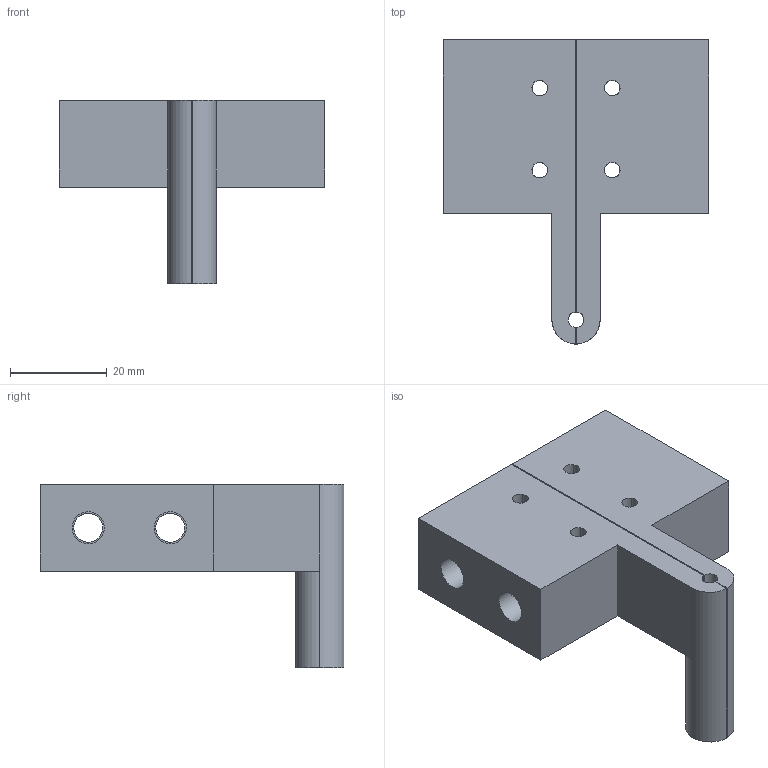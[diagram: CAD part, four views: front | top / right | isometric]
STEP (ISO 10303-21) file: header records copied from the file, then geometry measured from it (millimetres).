
FILE_DESCRIPTION(('CATIA V5 STEP Exchange'),'2;1');
FILE_NAME('D:\姚明阳\1、工装图纸\AGZ131\AGZ131.07_V2.stp','2025-04-25T06:59:23+00:00',('none'),('none'),'CATIA Version 5 Release 21 GA (IN-10)','CATIA V5 STEP AP214','none');
FILE_SCHEMA(('AUTOMOTIVE_DESIGN { 1 0 10303 214 1 1 1 1 }'));
Length unit declared in the file: millimetre
Products named in the file (1): AGZ131.07_V1
Bounding box: 55 x 63 x 38 mm (x, y, z)
Volume: 37346.6 mm3; surface area: 14364.4 mm2
Topology: 2 solids, 2 shells, 72 faces, 188 edges, 124 vertices
Faces by surface type: cylinder 44, plane 24, cone 4
Entity records: 2272 total; most frequent: CARTESIAN_POINT 634, ORIENTED_EDGE 376, DIRECTION 226, EDGE_CURVE 188, VERTEX_POINT 124, AXIS2_PLACEMENT_3D 106, EDGE_LOOP 100, VECTOR 92
